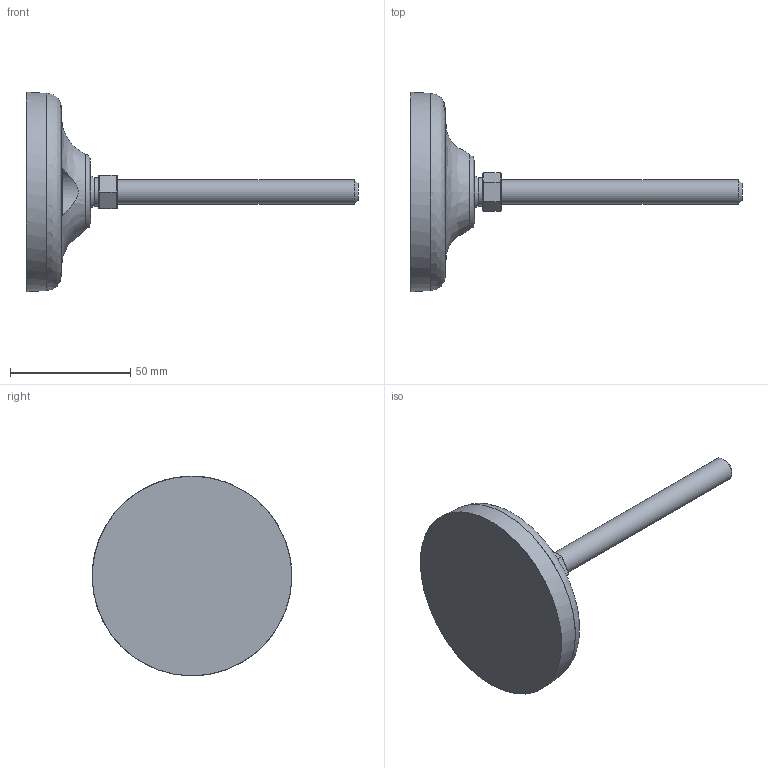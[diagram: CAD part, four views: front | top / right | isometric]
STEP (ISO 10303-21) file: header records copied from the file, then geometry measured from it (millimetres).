
FILE_DESCRIPTION(('STEP AP203'),'2;1');
FILE_NAME('10298-10.stp','2015-01-23T09:10:13',(''),(''),'2008.1.107','THINKDESIGN','');
FILE_SCHEMA(('CONFIG_CONTROL_DESIGN'));
Length unit declared in the file: millimetre
Bounding box: 138 x 83 x 83 mm (x, y, z)
Volume: 9168.2 mm3; surface area: 18590.3 mm2
Topology: 2 solids, 2 shells, 39 faces, 94 edges, 63 vertices
Faces by surface type: bspline 18, plane 17, cylinder 4
Full cylindrical faces by diameter (mm): 10 x1, 11.64 x1
Entity records: 1635 total; most frequent: CARTESIAN_POINT 763, DIRECTION 134, ORIENTED_EDGE 100, EDGE_CURVE 50, VECTOR 48, LINE 48, COMPOSITE_CURVE_SEGMENT 44, AXIS2_PLACEMENT_3D 43
